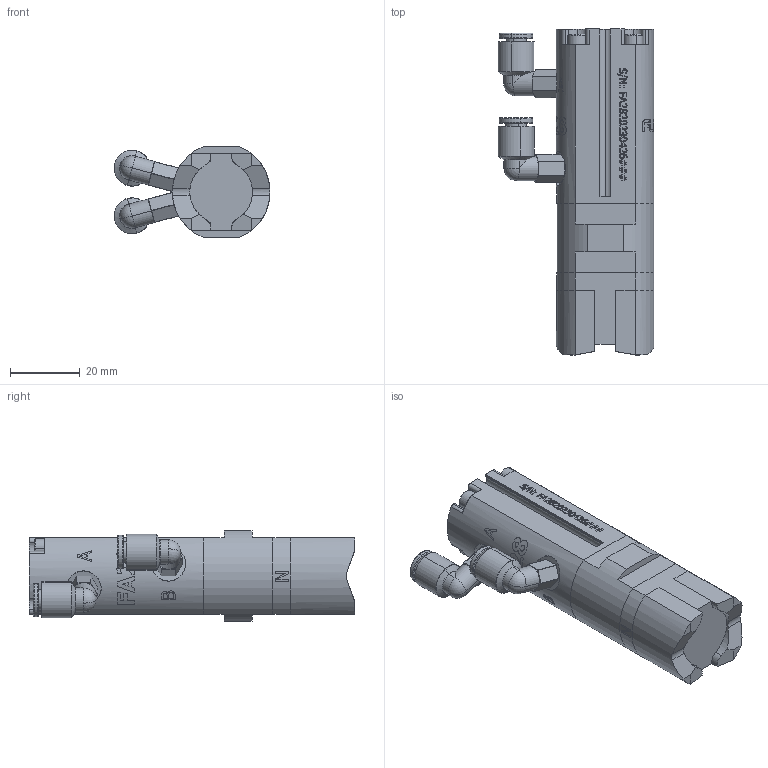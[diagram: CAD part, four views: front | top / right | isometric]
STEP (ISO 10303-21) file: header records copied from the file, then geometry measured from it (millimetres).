
FILE_DESCRIPTION (( 'STEP AP214' ), '1' );
FILE_NAME ('9970115_FA28-V-0 (FOR SHARE).STEP', '2023-10-06T07:56:22', ( '' ), ( '' ), 'SwSTEP 2.0', 'SolidWorks 2021', '' );
FILE_SCHEMA (( 'AUTOMOTIVE_DESIGN' ));
Length unit declared in the file: millimetre
Products named in the file (11): 160030_2.5X12__SUS304_默认_; 180027_ M5-6mm_plug-in airport; 120040_FA28 shunt(FOR SHARE); 9970115_FA28-V-0 (FOR SHARE); 110030_FA28 base housing(FOR SHARE); 120049_FA28 std  V-cut pole; 150048_M3X75_SHCS_304(FOR SHARE)_91292A316; 9070005 - FA28 (FOR SHARE); 4060032_FA28 std V-cut pole kit_默认_; 160029_2.5X8__SUS304_默认_; 110031_FA28 actuator top(FOR SHARE)
Assembly tree (17 placements, depth 3):
  9970115_FA28-V-0 (FOR SHARE)
    9070005 - FA28 (FOR SHARE)
      110031_FA28 actuator top(FOR SHARE)
      110030_FA28 base housing(FOR SHARE)
      120040_FA28 shunt(FOR SHARE)
      150048_M3X75_SHCS_304(FOR SHARE)_91292A316  x4
      160029_2.5X8__SUS304_默认_  x2
      160030_2.5X12__SUS304_默认_  x2
    4060032_FA28 std V-cut pole kit_默认_
      120049_FA28 std  V-cut pole  x2
    180027_ M5-6mm_plug-in airport  x2
Bounding box: 44.78 x 93.54 x 26 mm (x, y, z)
Volume: 47670.3 mm3; surface area: 24212.2 mm2
Topology: 13 solids, 19 shells, 607 faces, 1847 edges, 1297 vertices
Faces by surface type: cylinder 259, plane 166, cone 124, sphere 28, torus 26, bspline 4
Entity records: 19459 total; most frequent: CARTESIAN_POINT 6074, ORIENTED_EDGE 2622, DIRECTION 2221, EDGE_CURVE 1315, VERTEX_POINT 1022, AXIS2_PLACEMENT_3D 820, VECTOR 581, LINE 581
